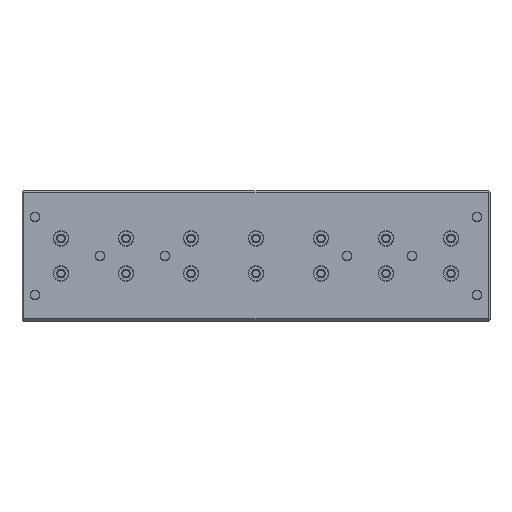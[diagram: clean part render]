
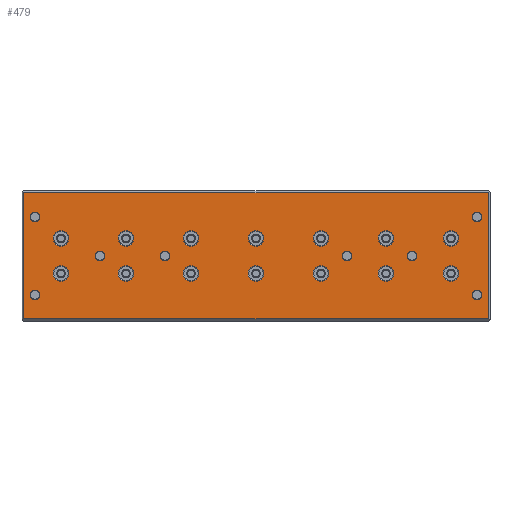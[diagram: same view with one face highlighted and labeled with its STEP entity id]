
A CAD part, top view. The second image highlights one B-rep face of the part: STEP entity #479.
In plain terms, the highlighted planar face has unit normal (0, 0, 1) as drawn and (0, 0, -1) by its records, which use the part's own axes.
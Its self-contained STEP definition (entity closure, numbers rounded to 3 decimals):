
#479=ADVANCED_FACE('',(#1668,#1669,#1670,#1671,#1672,#1673,#1674,#1675,
#1676,#1677,#1678,#1679,#1680,#1681,#1682,#1683,#1684,#1685,#1686,#1687,
#1688,#1689,#1690),#896,.F.);
#896=PLANE('',#6404);
#1056=LINE('',#9150,#1361);
#1057=LINE('',#9153,#1362);
#1058=LINE('',#9155,#1363);
#1059=LINE('',#9157,#1364);
#1361=VECTOR('',#7215,1.);
#1362=VECTOR('',#7216,1.);
#1363=VECTOR('',#7217,1.);
#1364=VECTOR('',#7218,1.);
#1668=FACE_BOUND('',#2433,.T.);
#1669=FACE_BOUND('',#2434,.T.);
#1670=FACE_BOUND('',#2435,.T.);
#1671=FACE_BOUND('',#2436,.T.);
#1672=FACE_BOUND('',#2437,.T.);
#1673=FACE_BOUND('',#2438,.T.);
#1674=FACE_BOUND('',#2439,.T.);
#1675=FACE_BOUND('',#2440,.T.);
#1676=FACE_BOUND('',#2441,.T.);
#1677=FACE_BOUND('',#2442,.T.);
#1678=FACE_BOUND('',#2443,.T.);
#1679=FACE_BOUND('',#2444,.T.);
#1680=FACE_BOUND('',#2445,.T.);
#1681=FACE_BOUND('',#2446,.T.);
#1682=FACE_BOUND('',#2447,.T.);
#1683=FACE_BOUND('',#2448,.T.);
#1684=FACE_BOUND('',#2449,.T.);
#1685=FACE_BOUND('',#2450,.T.);
#1686=FACE_BOUND('',#2451,.T.);
#1687=FACE_BOUND('',#2452,.T.);
#1688=FACE_BOUND('',#2453,.T.);
#1689=FACE_BOUND('',#2454,.T.);
#1690=FACE_BOUND('',#2455,.T.);
#2433=EDGE_LOOP('',(#3288));
#2434=EDGE_LOOP('',(#3289));
#2435=EDGE_LOOP('',(#3290));
#2436=EDGE_LOOP('',(#3291));
#2437=EDGE_LOOP('',(#3292,#3293,#3294,#3295));
#2438=EDGE_LOOP('',(#3296));
#2439=EDGE_LOOP('',(#3297));
#2440=EDGE_LOOP('',(#3298));
#2441=EDGE_LOOP('',(#3299));
#2442=EDGE_LOOP('',(#3300));
#2443=EDGE_LOOP('',(#3301));
#2444=EDGE_LOOP('',(#3302));
#2445=EDGE_LOOP('',(#3303));
#2446=EDGE_LOOP('',(#3304));
#2447=EDGE_LOOP('',(#3305));
#2448=EDGE_LOOP('',(#3306));
#2449=EDGE_LOOP('',(#3307));
#2450=EDGE_LOOP('',(#3308));
#2451=EDGE_LOOP('',(#3309));
#2452=EDGE_LOOP('',(#3310));
#2453=EDGE_LOOP('',(#3311));
#2454=EDGE_LOOP('',(#3312));
#2455=EDGE_LOOP('',(#3313));
#3288=ORIENTED_EDGE('',*,*,#5291,.T.);
#3289=ORIENTED_EDGE('',*,*,#5292,.T.);
#3290=ORIENTED_EDGE('',*,*,#5293,.T.);
#3291=ORIENTED_EDGE('',*,*,#5294,.T.);
#3292=ORIENTED_EDGE('',*,*,#5295,.T.);
#3293=ORIENTED_EDGE('',*,*,#5296,.T.);
#3294=ORIENTED_EDGE('',*,*,#5297,.T.);
#3295=ORIENTED_EDGE('',*,*,#5298,.T.);
#3296=ORIENTED_EDGE('',*,*,#5299,.T.);
#3297=ORIENTED_EDGE('',*,*,#5300,.T.);
#3298=ORIENTED_EDGE('',*,*,#5301,.T.);
#3299=ORIENTED_EDGE('',*,*,#5302,.T.);
#3300=ORIENTED_EDGE('',*,*,#5303,.T.);
#3301=ORIENTED_EDGE('',*,*,#5304,.T.);
#3302=ORIENTED_EDGE('',*,*,#5305,.T.);
#3303=ORIENTED_EDGE('',*,*,#5306,.T.);
#3304=ORIENTED_EDGE('',*,*,#5307,.T.);
#3305=ORIENTED_EDGE('',*,*,#5308,.T.);
#3306=ORIENTED_EDGE('',*,*,#5309,.T.);
#3307=ORIENTED_EDGE('',*,*,#5310,.T.);
#3308=ORIENTED_EDGE('',*,*,#5311,.T.);
#3309=ORIENTED_EDGE('',*,*,#5312,.T.);
#3310=ORIENTED_EDGE('',*,*,#5313,.T.);
#3311=ORIENTED_EDGE('',*,*,#5314,.T.);
#3312=ORIENTED_EDGE('',*,*,#5315,.T.);
#3313=ORIENTED_EDGE('',*,*,#5316,.T.);
#4696=VERTEX_POINT('',#9143);
#4697=VERTEX_POINT('',#9145);
#4698=VERTEX_POINT('',#9147);
#4699=VERTEX_POINT('',#9149);
#4700=VERTEX_POINT('',#9151);
#4701=VERTEX_POINT('',#9152);
#4702=VERTEX_POINT('',#9154);
#4703=VERTEX_POINT('',#9156);
#4704=VERTEX_POINT('',#9159);
#4705=VERTEX_POINT('',#9161);
#4706=VERTEX_POINT('',#9163);
#4707=VERTEX_POINT('',#9165);
#4708=VERTEX_POINT('',#9167);
#4709=VERTEX_POINT('',#9169);
#4710=VERTEX_POINT('',#9171);
#4711=VERTEX_POINT('',#9173);
#4712=VERTEX_POINT('',#9175);
#4713=VERTEX_POINT('',#9177);
#4714=VERTEX_POINT('',#9179);
#4715=VERTEX_POINT('',#9181);
#4716=VERTEX_POINT('',#9183);
#4717=VERTEX_POINT('',#9185);
#4718=VERTEX_POINT('',#9187);
#4719=VERTEX_POINT('',#9189);
#4720=VERTEX_POINT('',#9191);
#4721=VERTEX_POINT('',#9193);
#5291=EDGE_CURVE('',#4696,#4696,#5991,.T.);
#5292=EDGE_CURVE('',#4697,#4697,#5992,.T.);
#5293=EDGE_CURVE('',#4698,#4698,#5993,.T.);
#5294=EDGE_CURVE('',#4699,#4699,#5994,.T.);
#5295=EDGE_CURVE('',#4700,#4701,#1056,.T.);
#5296=EDGE_CURVE('',#4701,#4702,#1057,.T.);
#5297=EDGE_CURVE('',#4702,#4703,#1058,.T.);
#5298=EDGE_CURVE('',#4703,#4700,#1059,.T.);
#5299=EDGE_CURVE('',#4704,#4704,#5995,.T.);
#5300=EDGE_CURVE('',#4705,#4705,#5996,.T.);
#5301=EDGE_CURVE('',#4706,#4706,#5997,.T.);
#5302=EDGE_CURVE('',#4707,#4707,#5998,.T.);
#5303=EDGE_CURVE('',#4708,#4708,#5999,.T.);
#5304=EDGE_CURVE('',#4709,#4709,#6000,.T.);
#5305=EDGE_CURVE('',#4710,#4710,#6001,.T.);
#5306=EDGE_CURVE('',#4711,#4711,#6002,.T.);
#5307=EDGE_CURVE('',#4712,#4712,#6003,.T.);
#5308=EDGE_CURVE('',#4713,#4713,#6004,.T.);
#5309=EDGE_CURVE('',#4714,#4714,#6005,.T.);
#5310=EDGE_CURVE('',#4715,#4715,#6006,.T.);
#5311=EDGE_CURVE('',#4716,#4716,#6007,.T.);
#5312=EDGE_CURVE('',#4717,#4717,#6008,.T.);
#5313=EDGE_CURVE('',#4718,#4718,#6009,.T.);
#5314=EDGE_CURVE('',#4719,#4719,#6010,.T.);
#5315=EDGE_CURVE('',#4720,#4720,#6011,.T.);
#5316=EDGE_CURVE('',#4721,#4721,#6012,.T.);
#5991=CIRCLE('',#6382,3.8);
#5992=CIRCLE('',#6383,3.8);
#5993=CIRCLE('',#6384,6.);
#5994=CIRCLE('',#6385,6.);
#5995=CIRCLE('',#6386,6.);
#5996=CIRCLE('',#6387,6.);
#5997=CIRCLE('',#6388,3.8);
#5998=CIRCLE('',#6389,3.8);
#5999=CIRCLE('',#6390,6.);
#6000=CIRCLE('',#6391,6.);
#6001=CIRCLE('',#6392,3.8);
#6002=CIRCLE('',#6393,3.8);
#6003=CIRCLE('',#6394,6.);
#6004=CIRCLE('',#6395,6.);
#6005=CIRCLE('',#6396,3.8);
#6006=CIRCLE('',#6397,3.8);
#6007=CIRCLE('',#6398,6.);
#6008=CIRCLE('',#6399,6.);
#6009=CIRCLE('',#6400,6.);
#6010=CIRCLE('',#6401,6.);
#6011=CIRCLE('',#6402,6.);
#6012=CIRCLE('',#6403,6.);
#6382=AXIS2_PLACEMENT_3D('',#9142,#7207,#7208);
#6383=AXIS2_PLACEMENT_3D('',#9144,#7209,#7210);
#6384=AXIS2_PLACEMENT_3D('',#9146,#7211,#7212);
#6385=AXIS2_PLACEMENT_3D('',#9148,#7213,#7214);
#6386=AXIS2_PLACEMENT_3D('',#9158,#7219,#7220);
#6387=AXIS2_PLACEMENT_3D('',#9160,#7221,#7222);
#6388=AXIS2_PLACEMENT_3D('',#9162,#7223,#7224);
#6389=AXIS2_PLACEMENT_3D('',#9164,#7225,#7226);
#6390=AXIS2_PLACEMENT_3D('',#9166,#7227,#7228);
#6391=AXIS2_PLACEMENT_3D('',#9168,#7229,#7230);
#6392=AXIS2_PLACEMENT_3D('',#9170,#7231,#7232);
#6393=AXIS2_PLACEMENT_3D('',#9172,#7233,#7234);
#6394=AXIS2_PLACEMENT_3D('',#9174,#7235,#7236);
#6395=AXIS2_PLACEMENT_3D('',#9176,#7237,#7238);
#6396=AXIS2_PLACEMENT_3D('',#9178,#7239,#7240);
#6397=AXIS2_PLACEMENT_3D('',#9180,#7241,#7242);
#6398=AXIS2_PLACEMENT_3D('',#9182,#7243,#7244);
#6399=AXIS2_PLACEMENT_3D('',#9184,#7245,#7246);
#6400=AXIS2_PLACEMENT_3D('',#9186,#7247,#7248);
#6401=AXIS2_PLACEMENT_3D('',#9188,#7249,#7250);
#6402=AXIS2_PLACEMENT_3D('',#9190,#7251,#7252);
#6403=AXIS2_PLACEMENT_3D('',#9192,#7253,#7254);
#6404=AXIS2_PLACEMENT_3D('',#9194,#7255,#7256);
#7207=DIRECTION('',(0.,0.,1.));
#7208=DIRECTION('',(1.,0.,0.));
#7209=DIRECTION('',(0.,0.,1.));
#7210=DIRECTION('',(1.,0.,0.));
#7211=DIRECTION('',(0.,0.,1.));
#7212=DIRECTION('',(1.,0.,0.));
#7213=DIRECTION('',(0.,0.,1.));
#7214=DIRECTION('',(1.,0.,0.));
#7215=DIRECTION('',(0.,-1.,0.));
#7216=DIRECTION('',(-1.,0.,0.));
#7217=DIRECTION('',(0.,1.,0.));
#7218=DIRECTION('',(1.,0.,0.));
#7219=DIRECTION('',(0.,0.,1.));
#7220=DIRECTION('',(1.,0.,0.));
#7221=DIRECTION('',(0.,0.,1.));
#7222=DIRECTION('',(1.,0.,0.));
#7223=DIRECTION('',(0.,0.,1.));
#7224=DIRECTION('',(1.,0.,0.));
#7225=DIRECTION('',(0.,0.,1.));
#7226=DIRECTION('',(1.,0.,0.));
#7227=DIRECTION('',(0.,0.,1.));
#7228=DIRECTION('',(1.,0.,0.));
#7229=DIRECTION('',(0.,0.,1.));
#7230=DIRECTION('',(1.,0.,0.));
#7231=DIRECTION('',(0.,0.,1.));
#7232=DIRECTION('',(1.,0.,0.));
#7233=DIRECTION('',(0.,0.,1.));
#7234=DIRECTION('',(1.,0.,0.));
#7235=DIRECTION('',(0.,0.,1.));
#7236=DIRECTION('',(1.,0.,0.));
#7237=DIRECTION('',(0.,0.,1.));
#7238=DIRECTION('',(1.,0.,0.));
#7239=DIRECTION('',(0.,0.,1.));
#7240=DIRECTION('',(1.,0.,0.));
#7241=DIRECTION('',(0.,0.,1.));
#7242=DIRECTION('',(1.,0.,0.));
#7243=DIRECTION('',(0.,0.,1.));
#7244=DIRECTION('',(1.,0.,0.));
#7245=DIRECTION('',(0.,0.,1.));
#7246=DIRECTION('',(1.,0.,0.));
#7247=DIRECTION('',(0.,0.,1.));
#7248=DIRECTION('',(1.,0.,0.));
#7249=DIRECTION('',(0.,0.,1.));
#7250=DIRECTION('',(1.,0.,0.));
#7251=DIRECTION('',(0.,0.,1.));
#7252=DIRECTION('',(1.,0.,0.));
#7253=DIRECTION('',(0.,0.,1.));
#7254=DIRECTION('',(1.,0.,0.));
#7255=DIRECTION('',(0.,0.,1.));
#7256=DIRECTION('',(-1.,0.,0.));
#9142=CARTESIAN_POINT('',(250.,0.,0.));
#9143=CARTESIAN_POINT('',(253.8,0.,0.));
#9144=CARTESIAN_POINT('',(110.,0.,0.));
#9145=CARTESIAN_POINT('',(113.8,0.,0.));
#9146=CARTESIAN_POINT('',(280.,-13.5,0.));
#9147=CARTESIAN_POINT('',(286.,-13.5,0.));
#9148=CARTESIAN_POINT('',(280.,13.5,0.));
#9149=CARTESIAN_POINT('',(286.,13.5,0.));
#9150=CARTESIAN_POINT('',(358.5,48.5,0.));
#9151=CARTESIAN_POINT('',(358.5,48.5,0.));
#9152=CARTESIAN_POINT('',(358.5,-48.5,0.));
#9153=CARTESIAN_POINT('',(308.5,-48.5,0.));
#9154=CARTESIAN_POINT('',(1.5,-48.5,0.));
#9155=CARTESIAN_POINT('',(1.5,-48.5,0.));
#9156=CARTESIAN_POINT('',(1.5,48.5,0.));
#9157=CARTESIAN_POINT('',(1.5,48.5,0.));
#9158=CARTESIAN_POINT('',(80.,13.5,0.));
#9159=CARTESIAN_POINT('',(86.,13.5,0.));
#9160=CARTESIAN_POINT('',(80.,-13.5,0.));
#9161=CARTESIAN_POINT('',(86.,-13.5,0.));
#9162=CARTESIAN_POINT('',(350.,-30.,0.));
#9163=CARTESIAN_POINT('',(353.8,-30.,0.));
#9164=CARTESIAN_POINT('',(10.,-30.,0.));
#9165=CARTESIAN_POINT('',(13.8,-30.,0.));
#9166=CARTESIAN_POINT('',(30.,-13.5,0.));
#9167=CARTESIAN_POINT('',(36.,-13.5,0.));
#9168=CARTESIAN_POINT('',(30.,13.5,0.));
#9169=CARTESIAN_POINT('',(36.,13.5,0.));
#9170=CARTESIAN_POINT('',(10.,30.,0.));
#9171=CARTESIAN_POINT('',(13.8,30.,0.));
#9172=CARTESIAN_POINT('',(350.,30.,0.));
#9173=CARTESIAN_POINT('',(353.8,30.,0.));
#9174=CARTESIAN_POINT('',(130.,-13.5,0.));
#9175=CARTESIAN_POINT('',(136.,-13.5,0.));
#9176=CARTESIAN_POINT('',(130.,13.5,0.));
#9177=CARTESIAN_POINT('',(136.,13.5,0.));
#9178=CARTESIAN_POINT('',(60.,0.,0.));
#9179=CARTESIAN_POINT('',(63.8,0.,0.));
#9180=CARTESIAN_POINT('',(300.,0.,0.));
#9181=CARTESIAN_POINT('',(303.8,0.,0.));
#9182=CARTESIAN_POINT('',(180.,-13.5,0.));
#9183=CARTESIAN_POINT('',(186.,-13.5,0.));
#9184=CARTESIAN_POINT('',(180.,13.5,0.));
#9185=CARTESIAN_POINT('',(186.,13.5,0.));
#9186=CARTESIAN_POINT('',(230.,13.5,0.));
#9187=CARTESIAN_POINT('',(236.,13.5,0.));
#9188=CARTESIAN_POINT('',(230.,-13.5,0.));
#9189=CARTESIAN_POINT('',(236.,-13.5,0.));
#9190=CARTESIAN_POINT('',(330.,-13.5,0.));
#9191=CARTESIAN_POINT('',(336.,-13.5,0.));
#9192=CARTESIAN_POINT('',(330.,13.5,0.));
#9193=CARTESIAN_POINT('',(336.,13.5,0.));
#9194=CARTESIAN_POINT('',(0.,0.,0.));
